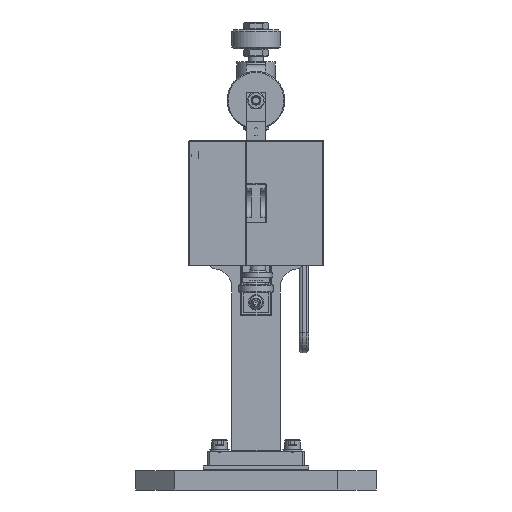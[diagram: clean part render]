
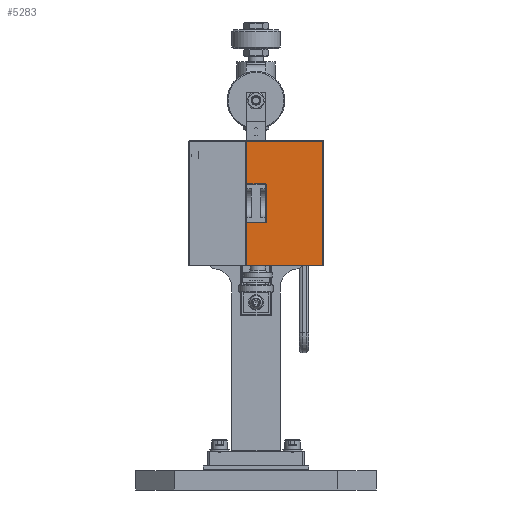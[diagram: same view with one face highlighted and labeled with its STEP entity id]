
A CAD part, left-side view. The second image highlights one B-rep face of the part: STEP entity #5283.
In plain terms, the highlighted planar face has unit normal (-1, 0, 0) as drawn and (0, -1, 0) by its records, which use the part's own axes.
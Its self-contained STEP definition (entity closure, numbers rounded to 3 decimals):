
#2440=FACE_OUTER_BOUND('',#8378,.T.);
#3192=LINE('',#27638,#4252);
#3193=LINE('',#27641,#4253);
#3194=LINE('',#27643,#4254);
#3195=LINE('',#27645,#4255);
#3196=LINE('',#27647,#4256);
#3197=LINE('',#27651,#4257);
#3198=LINE('',#27655,#4258);
#3199=LINE('',#27657,#4259);
#4252=VECTOR('',#21380,1.);
#4253=VECTOR('',#21381,1.);
#4254=VECTOR('',#21382,1.);
#4255=VECTOR('',#21383,1.);
#4256=VECTOR('',#21384,1.);
#4257=VECTOR('',#21387,1.);
#4258=VECTOR('',#21390,1.);
#4259=VECTOR('',#21391,1.);
#5283=ADVANCED_FACE('',(#2440),#6146,.T.);
#6146=PLANE('',#18386);
#8378=EDGE_LOOP('',(#10860,#10861,#10862,#10863,#10864,#10865,#10866,#10867,
#10868,#10869));
#10860=ORIENTED_EDGE('',*,*,#15691,.T.);
#10861=ORIENTED_EDGE('',*,*,#15692,.T.);
#10862=ORIENTED_EDGE('',*,*,#15693,.T.);
#10863=ORIENTED_EDGE('',*,*,#15694,.T.);
#10864=ORIENTED_EDGE('',*,*,#15695,.T.);
#10865=ORIENTED_EDGE('',*,*,#15696,.T.);
#10866=ORIENTED_EDGE('',*,*,#15697,.T.);
#10867=ORIENTED_EDGE('',*,*,#15698,.T.);
#10868=ORIENTED_EDGE('',*,*,#15699,.T.);
#10869=ORIENTED_EDGE('',*,*,#15700,.T.);
#14024=VERTEX_POINT('',#27639);
#14025=VERTEX_POINT('',#27640);
#14026=VERTEX_POINT('',#27642);
#14027=VERTEX_POINT('',#27644);
#14028=VERTEX_POINT('',#27646);
#14029=VERTEX_POINT('',#27648);
#14030=VERTEX_POINT('',#27650);
#14031=VERTEX_POINT('',#27652);
#14032=VERTEX_POINT('',#27654);
#14033=VERTEX_POINT('',#27656);
#15691=EDGE_CURVE('',#14024,#14025,#3192,.T.);
#15692=EDGE_CURVE('',#14025,#14026,#3193,.T.);
#15693=EDGE_CURVE('',#14026,#14027,#3194,.T.);
#15694=EDGE_CURVE('',#14027,#14028,#3195,.T.);
#15695=EDGE_CURVE('',#14028,#14029,#3196,.T.);
#15696=EDGE_CURVE('',#14029,#14030,#17247,.T.);
#15697=EDGE_CURVE('',#14030,#14031,#3197,.T.);
#15698=EDGE_CURVE('',#14031,#14032,#17248,.T.);
#15699=EDGE_CURVE('',#14032,#14033,#3198,.T.);
#15700=EDGE_CURVE('',#14033,#14024,#3199,.T.);
#17247=CIRCLE('',#18384,0.6);
#17248=CIRCLE('',#18385,0.6);
#18384=AXIS2_PLACEMENT_3D('',#27649,#21385,#21386);
#18385=AXIS2_PLACEMENT_3D('',#27653,#21388,#21389);
#18386=AXIS2_PLACEMENT_3D('',#27658,#21392,#21393);
#21380=DIRECTION('',(1.,0.,0.));
#21381=DIRECTION('',(0.,0.,1.));
#21382=DIRECTION('',(-1.,0.,0.));
#21383=DIRECTION('',(0.,0.,-1.));
#21384=DIRECTION('',(1.,0.,0.));
#21385=DIRECTION('',(0.,1.,0.));
#21386=DIRECTION('',(0.,0.,-1.));
#21387=DIRECTION('',(0.,0.,-1.));
#21388=DIRECTION('',(0.,1.,0.));
#21389=DIRECTION('',(0.,0.,-1.));
#21390=DIRECTION('',(-1.,0.,0.));
#21391=DIRECTION('',(0.,0.,-1.));
#21392=DIRECTION('',(0.,-1.,0.));
#21393=DIRECTION('',(0.,0.,-1.));
#27638=CARTESIAN_POINT('',(80.,-60.,0.4));
#27639=CARTESIAN_POINT('',(0.4,-60.,0.4));
#27640=CARTESIAN_POINT('',(79.6,-60.,0.4));
#27641=CARTESIAN_POINT('',(79.6,-60.,130.));
#27642=CARTESIAN_POINT('',(79.6,-60.,129.6));
#27643=CARTESIAN_POINT('',(0.,-60.,129.6));
#27644=CARTESIAN_POINT('',(0.4,-60.,129.6));
#27645=CARTESIAN_POINT('',(0.4,-60.,85.));
#27646=CARTESIAN_POINT('',(0.4,-60.,85.4));
#27647=CARTESIAN_POINT('',(19.8,-60.,85.4));
#27648=CARTESIAN_POINT('',(19.8,-60.,85.4));
#27649=CARTESIAN_POINT('',(19.8,-60.,84.8));
#27650=CARTESIAN_POINT('',(20.4,-60.,84.8));
#27651=CARTESIAN_POINT('',(20.4,-60.,45.2));
#27652=CARTESIAN_POINT('',(20.4,-60.,45.2));
#27653=CARTESIAN_POINT('',(19.8,-60.,45.2));
#27654=CARTESIAN_POINT('',(19.8,-60.,44.6));
#27655=CARTESIAN_POINT('',(0.,-60.,44.6));
#27656=CARTESIAN_POINT('',(0.4,-60.,44.6));
#27657=CARTESIAN_POINT('',(0.4,-60.,0.));
#27658=CARTESIAN_POINT('',(0.,-60.,0.));
